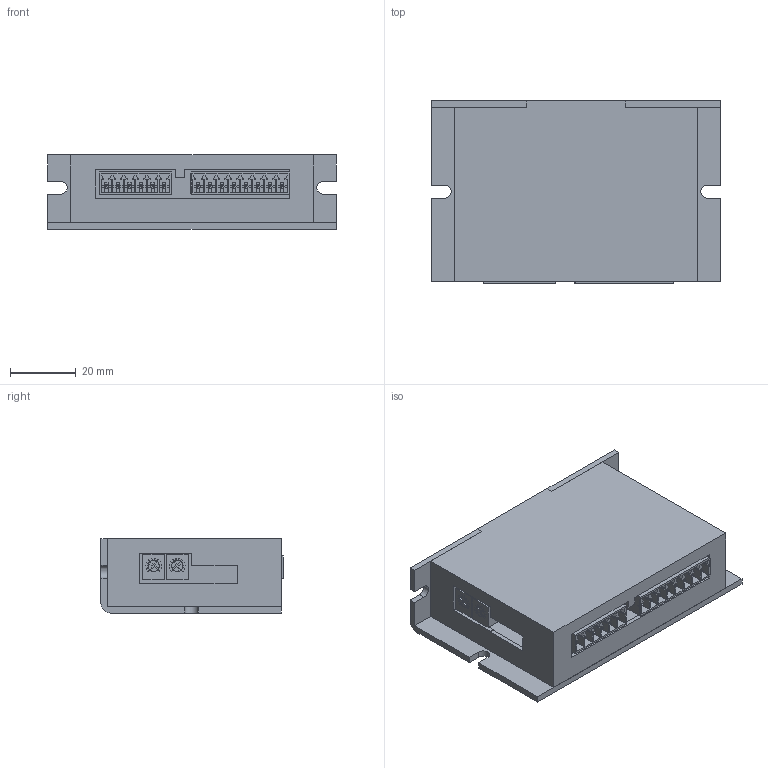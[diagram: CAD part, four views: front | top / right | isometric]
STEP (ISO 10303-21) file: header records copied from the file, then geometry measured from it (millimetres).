
FILE_DESCRIPTION(/* description */ ('Unknown'),/* implementation_level */ '2;1');
FILE_NAME(/* name */ 'CSD203驅動器',/* time_stamp */ '2021-05-04T10:07:57+08:00',/* author */ ('Unknown'),/* organization */ ('Unknown'),/* preprocessor_version */ 'ST-DEVELOPER v16.7',/* originating_system */ 'DEX',/* authorisation */ $);
FILE_SCHEMA (('AUTOMOTIVE_DESIGN {1 0 10303 214 3 1 1}'));
Length unit declared in the file: millimetre
Products named in the file (6): CSD203ÅX°Ê¾¹å™¨çµ„ç«‹; CSD203P綯佸骇; CSD203P･~; 旋; 端母(; 端母(sentationRefs
Assembly tree (5 placements, depth 2):
  CSD203ÅX°Ê¾¹å™¨çµ„ç«‹
    CSD203P綯佸骇
    CSD203P･~
    旋
    端母(
    端母(sentationRefs
Bounding box: 88 x 55.5 x 22.6 mm (x, y, z)
Volume: 23466.8 mm3; surface area: 32453 mm2
Topology: 6 solids, 6 shells, 707 faces, 1895 edges, 1262 vertices
Faces by surface type: plane 682, cylinder 25
Full cylindrical faces by diameter (mm): 1.1 x8, 3.4 x2
Entity records: 26271 total; most frequent: CARTESIAN_POINT 3856, ORIENTED_EDGE 3766, DIRECTION 3371, EDGE_CURVE 1883, LINE 1821, VECTOR 1821, VERTEX_POINT 1260, EDGE_LOOP 783
